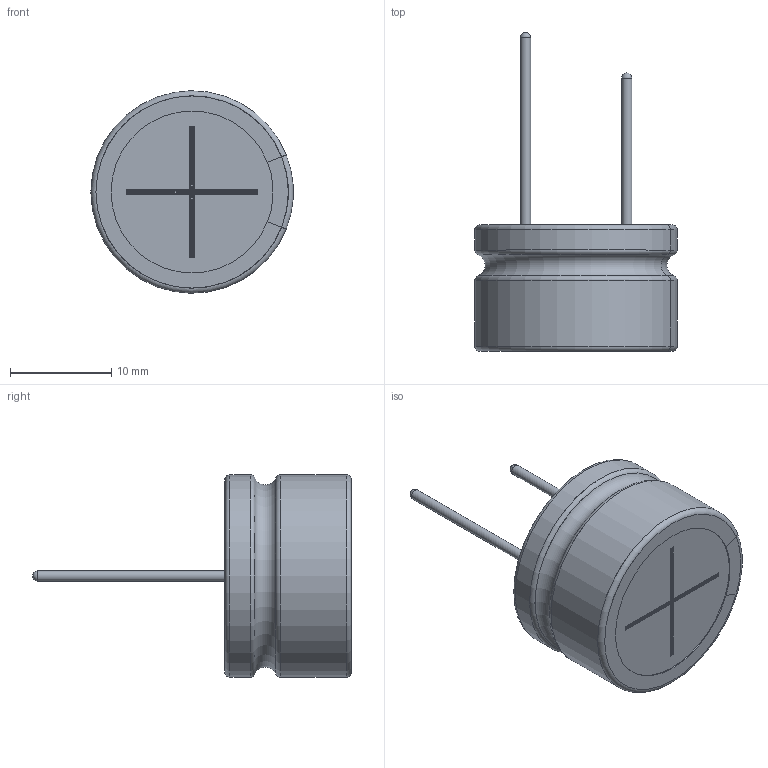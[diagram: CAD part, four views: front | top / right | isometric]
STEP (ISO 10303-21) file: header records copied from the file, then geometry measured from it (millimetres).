
FILE_DESCRIPTION(/* description */ (''),/* implementation_level */ '2;1');
FILE_NAME(/* name */ '20x12.5_Lead.stp',/* time_stamp */ '2017-08-31T16:46:31+09:00',/* author */ (''),/* organization */ (''),/* preprocessor_version */ 'ST-DEVELOPER v16',/* originating_system */ 'SIEMENS PLM Software NX 11.0',/* authorisation */ '');
FILE_SCHEMA (('AUTOMOTIVE_DESIGN { 1 0 10303 214 3 1 1 1 }'));
Length unit declared in the file: millimetre
Products named in the file (1): 20x12.5_Lead_igsstp
Bounding box: 19.97 x 31.5 x 20 mm (x, y, z)
Volume: 3819.8 mm3; surface area: 3542.3 mm2
Topology: 3 solids, 3 shells, 100 faces, 252 edges, 160 vertices
Faces by surface type: cylinder 36, plane 28, torus 26, sphere 6, bspline 4
Full cylindrical faces by diameter (mm): 1 x2, 19.8 x2
Entity records: 3386 total; most frequent: CARTESIAN_POINT 605, DIRECTION 566, ORIENTED_EDGE 468, AXIS2_PLACEMENT_3D 235, EDGE_CURVE 234, VERTEX_POINT 154, CIRCLE 130, EDGE_LOOP 114
